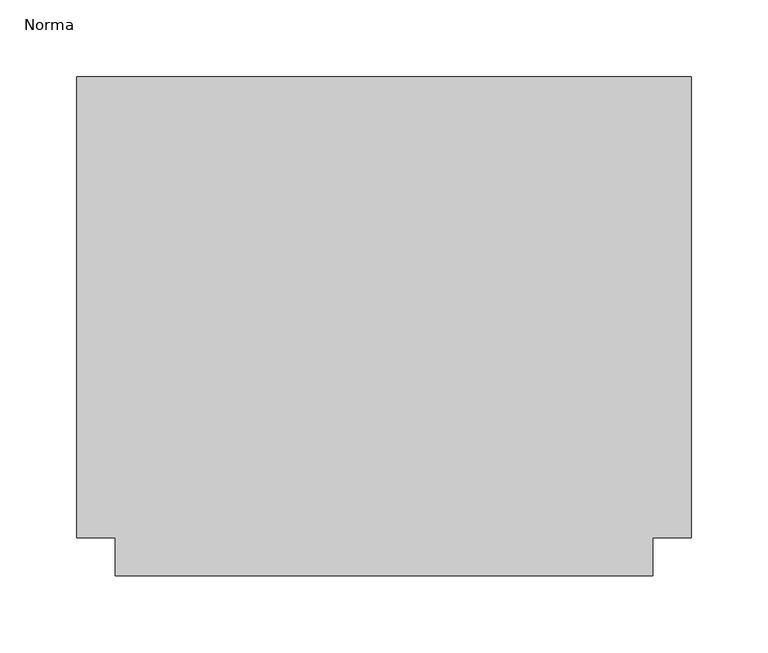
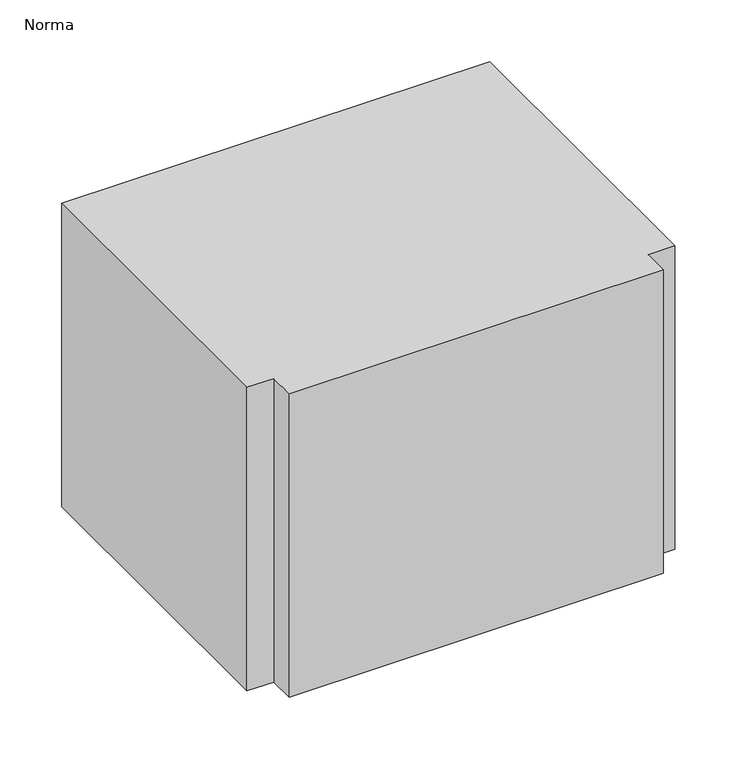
"""IFC4 building model written with IfcOpenShell, lengths in millimetres: duct fitting geometry, M_Te rectangular : Norma."""

from ifc_helpers import new_model, si_unit, frame, origin, place, context, project, spatial, polyline, outline, extrude, source, transform, mapped, element, save


def norma_aa79a1d3(model_context):
    return source(origin(), model_context, "Body", "SweptSolid", [
        extrude(outline(polyline([(-200.0, -150.0), (-200.0, 150.0), (200.0, 150.0), (200.0, -150.0), (175.0, -150.0), (175.0, -175.0), (-175.0, -175.0), (-175.0, -150.0), (-200.0, -150.0)])), frame((0.0, 0.0, -150.0), z_axis=(0.0, 0.0, 1.0), x_axis=(1.0, 0.0, 0.0)), (0.0, 0.0, 1.0), 300.0),
    ])


if __name__ == "__main__":
    model = new_model("IFC4")
    model_context = context("Model", 3, world=origin())
    ifc_project = project(units=[si_unit("LENGTHUNIT", "METRE", prefix="MILLI")], contexts=[model_context])
    site = spatial("IfcSite", under=ifc_project)
    building = spatial("IfcBuilding", under=site)
    placement = place(None, origin())
    norma_shape = norma_aa79a1d3(model_context)
    element("IfcDuctFitting", 1, ObjectType="M_Te rectangular : Norma", at=placement, inside=building, context=model_context, shape_type="MappedRepresentation", body=[
        mapped(norma_shape, transform((0.0, 0.0, 0.0), x_axis=(1.0, 0.0, 0.0), y_axis=(0.0, 1.0, 0.0), z_axis=(0.0, 0.0, 1.0))),
    ])
    save(model, "model.ifc")
